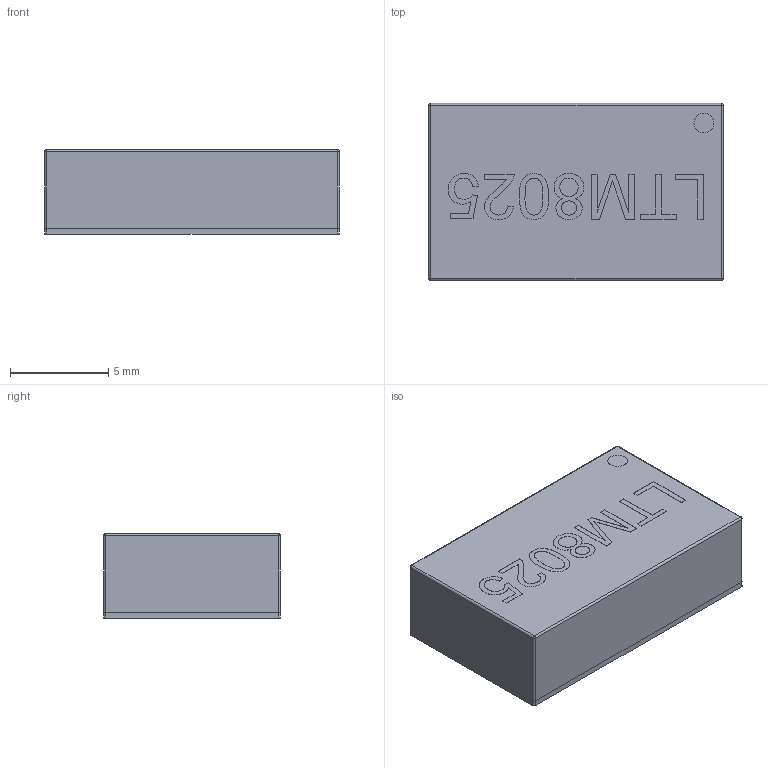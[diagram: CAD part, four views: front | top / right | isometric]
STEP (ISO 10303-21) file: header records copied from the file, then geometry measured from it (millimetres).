
FILE_DESCRIPTION (( 'STEP AP214' ), '1' );
FILE_NAME ('User Library-LTM8025 model.STEP', '2014-11-21T12:31:41', ( 'Windows User' ), ( '' ), 'SwSTEP 2.0', 'SolidWorks 2015', '' );
FILE_SCHEMA (( 'AUTOMOTIVE_DESIGN' ));
Length unit declared in the file: millimetre
Products named in the file (1): User Library-LTM8025 model
Bounding box: 15 x 9 x 4.32 mm (x, y, z)
Volume: 580.8 mm3; surface area: 825.3 mm2
Topology: 80 solids, 80 shells, 522 faces, 1078 edges, 712 vertices
Faces by surface type: plane 485, bspline 23, cylinder 14
Entity records: 20945 total; most frequent: CARTESIAN_POINT 3434, ORIENTED_EDGE 2148, DIRECTION 2064, EDGE_CURVE 1074, VECTOR 1008, LINE 1008, VERTEX_POINT 712, UNCERTAINTY_MEASURE_WITH_UNIT 604
